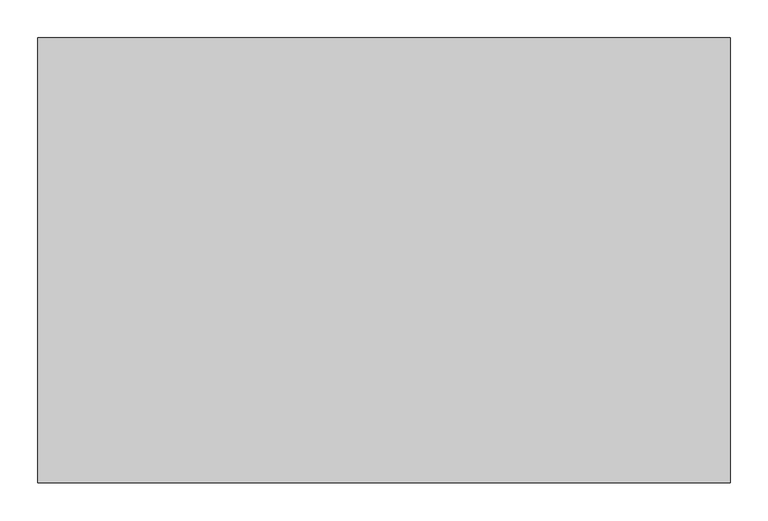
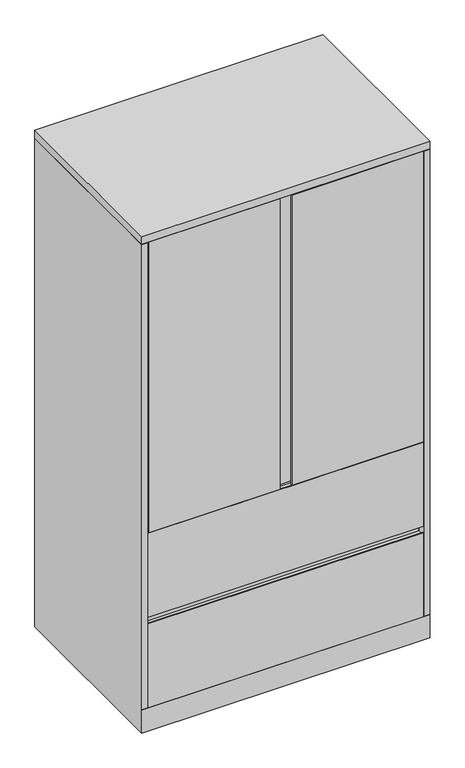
"""IFC4 building model written with IfcOpenShell, lengths in millimetres: furniture geometry, Steelcase - Universal Storage - Cabinet - Combination - Flush Steel : 65 1/2H - 2 Drawers - 23 1/8D x 36W."""

from ifc_helpers import new_model, si_unit, frame, origin, place, context, project, spatial, polyline, outline, extrude, faceted_brep, source, transform, mapped, element, save


def furniture_8434a0ad(model_context):
    return source(origin(), model_context, "Body", "SolidModel", [
        extrude(outline(polyline([(21.8068168, -561.975866), (893.572, -561.975866), (893.572, -587.502), (476.25, -587.502), (476.25, -583.185482), (489.4189152, -583.185482), (489.4189152, -568.3258781), (438.15, -568.3258781), (438.15, -587.502), (21.8068168, -587.502), (21.8068168, -561.975866)])), frame((0.0, 0.0, 663.956), z_axis=(0.0, 0.0, 1.0), x_axis=(1.0, 0.0, 0.0)), (0.0, 0.0, 1.0), 972.82),
        extrude(outline(polyline([(914.4, 0.0), (914.4, -587.502), (0.0, -587.502), (0.0, 0.0), (914.4, 0.0)])), frame((0.0, 0.0, 1638.2999516), z_axis=(0.0, 0.0, 1.0), x_axis=(1.0, 0.0, 0.0)), (0.0, 0.0, 1.0), 25.4000484),
        extrude(outline(polyline([(-587.502, 358.7750484), (-584.3262491, 358.7750484), (-584.3262491, 349.2500484), (-561.975866, 349.2500484), (-561.975866, 381.0), (-560.4518674, 381.0), (-560.4518674, 349.2500484), (-560.4518674, 77.724), (-587.502, 77.724), (-587.502, 358.7750484)])), frame((20.8280006, 0.0, 0.0), z_axis=(1.0, 0.0, 0.0), x_axis=(0.0, 1.0, 0.0)), (0.0, 0.0, 1.0), 872.7439994),
        extrude(outline(polyline([(889.0000242, -25.4000008), (889.0000242, -560.4518674), (25.4000008, -560.4518674), (25.4000008, -25.4000008), (889.0000242, -25.4000008)])), frame((0.0, 0.0, 358.7750484), z_axis=(0.0, 0.0, 1.0), x_axis=(1.0, 0.0, 0.0)), (0.0, 0.0, 1.0), 22.2249516),
        extrude(outline(polyline([(889.0000242, -25.4000008), (889.0000242, -560.4518674), (25.4000008, -560.4518674), (25.4000008, -25.4000008), (889.0000242, -25.4000008)])), frame((0.0, 0.0, 1268.6030484), z_axis=(0.0, 0.0, 1.0), x_axis=(1.0, 0.0, 0.0)), (0.0, 0.0, 1.0), 22.2249516),
        extrude(outline(polyline([(889.0000242, -25.4000008), (889.0000242, -560.4518674), (25.4000008, -560.4518674), (25.4000008, -25.4000008), (889.0000242, -25.4000008)])), frame((0.0, 0.0, 965.3270484), z_axis=(0.0, 0.0, 1.0), x_axis=(1.0, 0.0, 0.0)), (0.0, 0.0, 1.0), 22.2249516),
        extrude(outline(polyline([(-587.502, 662.0510484), (-584.3262491, 662.0510484), (-584.3262491, 652.5260484), (-561.975866, 652.5260484), (-561.975866, 684.276), (-560.4518674, 684.276), (-560.4518674, 652.5260484), (-560.4518674, 381.0), (-587.502, 381.0), (-587.502, 662.0510484)])), frame((20.8280006, 0.0, 0.0), z_axis=(1.0, 0.0, 0.0), x_axis=(0.0, 1.0, 0.0)), (0.0, 0.0, 1.0), 872.7439994),
        extrude(outline(polyline([(889.0000242, -25.4000008), (889.0000242, -560.4518674), (25.4000008, -560.4518674), (25.4000008, -25.4000008), (889.0000242, -25.4000008)])), frame((0.0, 0.0, 662.0510484), z_axis=(0.0, 0.0, 1.0), x_axis=(1.0, 0.0, 0.0)), (0.0, 0.0, 1.0), 22.2249516),
        faceted_brep([(914.4, 0.0, 0.0), (914.4, -587.502, 0.0), (0.0, -587.502, 0.0), (0.0, 0.0, 0.0), (0.0, 0.0, 1636.776), (914.4, 0.0, 1636.776), (0.0, -587.502, 76.2), (0.0, -587.502, 77.724), (0.0, -587.502, 1636.776), (914.4, -587.502, 76.2), (914.4, -587.502, 1636.776), (914.4, -587.502, 77.724), (889.0000242, -25.4000008, 1636.776), (889.0000242, -560.4518674, 1636.776), (893.572, -560.4518674, 1636.776), (893.572, -561.9758781, 1636.776), (895.096, -561.9758781, 1636.776), (895.096, -587.502, 1636.776), (19.304, -587.502, 1636.776), (19.304, -561.975866, 1636.776), (20.8280006, -561.975866, 1636.776), (20.8280006, -560.4518674, 1636.776), (25.4000008, -560.4518674, 1636.776), (25.4000008, -25.4000008, 1636.776), (19.304, -587.502, 77.724), (19.304, -568.198, 77.724), (895.096, -587.502, 77.724), (895.096, -568.0718418, 77.724), (889.0000242, -25.4000008, 77.724), (889.0000242, -560.4518674, 77.724), (893.572, -560.4518674, 77.724), (893.572, -561.9758781, 77.724), (895.096, -561.9758781, 77.724), (19.304, -561.975866, 77.724), (20.8280006, -561.975866, 77.724), (20.8280006, -560.4518674, 77.724), (25.4000008, -560.4518674, 77.724), (25.4000008, -25.4000008, 77.724), (25.526134, -561.975866, 77.724), (889.0000242, -561.975866, 77.724)], [[[0, 1, 2, 3]], [[0, 3, 4, 5]], [[4, 3, 2, 6, 7, 8]], [[2, 1, 9, 6]], [[1, 0, 5, 10, 11, 9]], [[12, 13, 14, 15, 16, 17, 10, 5, 4, 8, 18, 19, 20, 21, 22, 23]], [[24, 7, 25]], [[11, 26, 27]], [[13, 12, 28, 29]], [[14, 13, 29, 30]], [[15, 14, 30, 31]], [[16, 15, 31, 32]], [[17, 16, 32, 27, 26]], [[10, 17, 26, 11]], [[18, 8, 7, 24]], [[19, 18, 24, 25, 33]], [[20, 19, 33, 34]], [[21, 20, 34, 35]], [[22, 21, 35, 36]], [[23, 22, 36, 37]], [[12, 23, 37, 28]], [[38, 39, 27, 32, 31, 30, 29, 28, 37, 36, 35, 34, 33, 25]], [[7, 6, 38, 25]], [[39, 38, 6, 9]], [[39, 9, 11, 27]]]),
    ])


if __name__ == "__main__":
    model = new_model("IFC4")
    model_context = context("Model", 3, world=origin())
    ifc_project = project(units=[si_unit("LENGTHUNIT", "METRE", prefix="MILLI")], contexts=[model_context])
    site = spatial("IfcSite", under=ifc_project)
    building = spatial("IfcBuilding", under=site)
    placement = place(None, origin())
    furniture_shape = furniture_8434a0ad(model_context)
    element("IfcFurniture", 1, ObjectType="Steelcase - Universal Storage - Cabinet - Combination - Flush Steel : 65 1/2H - 2 Drawers - 23 1/8D x 36W", at=placement, inside=building, context=model_context, shape_type="MappedRepresentation", body=[
        mapped(furniture_shape, transform((0.0, 0.0, 0.0), x_axis=(1.0, 0.0, 0.0), y_axis=(0.0, 1.0, 0.0), z_axis=(0.0, 0.0, 1.0))),
    ])
    save(model, "model.ifc")
